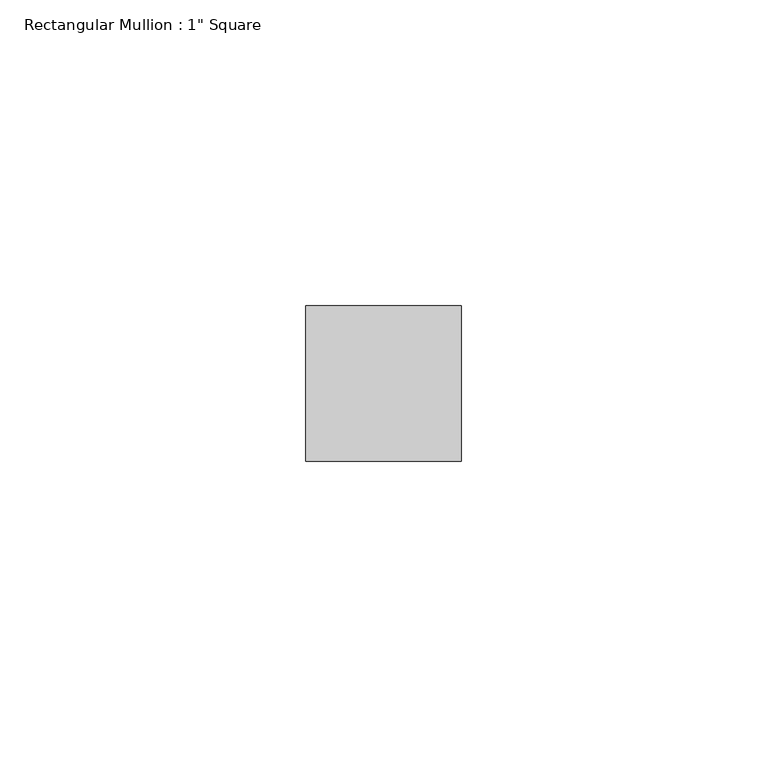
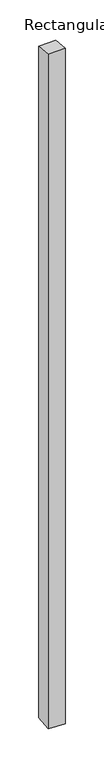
"""IFC4 building model written with IfcOpenShell, lengths in millimetres: member geometry."""

from ifc_helpers import new_model, si_unit, origin, place, context, project, spatial, faceted_brep, source, transform, mapped, element, save


def member_520e2632(model_context):
    return source(origin(), model_context, "Body", "Brep", [
        faceted_brep([(-25.4, 12.7, -2.1293969), (0.0, 12.7, -1.3956901), (0.0, 12.7, -1065.4454331), (-25.4, 12.7, -1064.7333446), (-25.4, -12.7, 0.6619833), (-25.4, -12.7, -1067.4424783), (0.0, -12.7, 1.3956901), (0.0, -12.7, -1068.1545669)], [[[0, 1, 2, 3]], [[4, 0, 3, 5]], [[6, 4, 5, 7]], [[1, 6, 7, 2]], [[1, 0, 4, 6]], [[2, 7, 5, 3]]]),
    ])


if __name__ == "__main__":
    model = new_model("IFC4")
    model_context = context("Model", 3, world=origin())
    ifc_project = project(units=[si_unit("LENGTHUNIT", "METRE", prefix="MILLI")], contexts=[model_context])
    site = spatial("IfcSite", under=ifc_project)
    building = spatial("IfcBuilding", under=site)
    placement = place(None, origin())
    member_shape = member_520e2632(model_context)
    element("IfcMember", 1, ObjectType="Rectangular Mullion : 1\" Square", at=placement, inside=building, context=model_context, shape_type="MappedRepresentation", body=[
        mapped(member_shape, transform((0.0, 0.0, 0.0), x_axis=(1.0, 0.0, 0.0), y_axis=(0.0, 1.0, 0.0), z_axis=(0.0, 0.0, 1.0))),
    ])
    save(model, "model.ifc")
